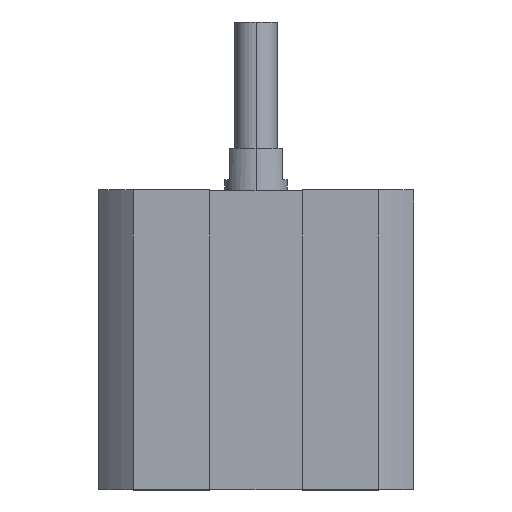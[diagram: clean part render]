
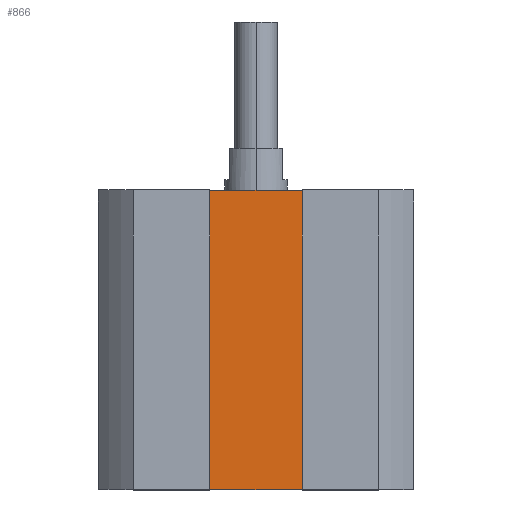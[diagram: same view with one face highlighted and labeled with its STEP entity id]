
A CAD part, top view. The second image highlights one B-rep face of the part: STEP entity #866.
In plain terms, the highlighted planar face has unit normal (0, 0, 1).
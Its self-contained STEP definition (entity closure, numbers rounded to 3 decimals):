
#17 = EDGE_CURVE ( 'NONE', #1270, #1239, #1906, .T. ) ;
#95 = AXIS2_PLACEMENT_3D ( 'NONE', #1305, #223, #940 ) ;
#127 = VECTOR ( 'NONE', #316, 1000. ) ;
#154 = CARTESIAN_POINT ( 'NONE',  ( -4.4, 0., 10. ) ) ;
#181 = DIRECTION ( 'NONE',  ( 1., 0., 0. ) ) ;
#208 = VERTEX_POINT ( 'NONE', #746 ) ;
#222 = LINE ( 'NONE', #711, #1037 ) ;
#223 = DIRECTION ( 'NONE',  ( 0., 0., 1. ) ) ;
#316 = DIRECTION ( 'NONE',  ( 0., 1., 0. ) ) ;
#424 = VECTOR ( 'NONE', #1238, 1000. ) ;
#439 = LINE ( 'NONE', #1038, #127 ) ;
#564 = CARTESIAN_POINT ( 'NONE',  ( 4.4, -28.5, 10. ) ) ;
#668 = ORIENTED_EDGE ( 'NONE', *, *, #1960, .F. ) ;
#711 = CARTESIAN_POINT ( 'NONE',  ( 0., -28.5, 10. ) ) ;
#746 = CARTESIAN_POINT ( 'NONE',  ( -4.4, -28.5, 10. ) ) ;
#755 = EDGE_CURVE ( 'NONE', #208, #1105, #222, .T. ) ;
#788 = LINE ( 'NONE', #564, #1064 ) ;
#837 = CARTESIAN_POINT ( 'NONE',  ( 4.4, -28.5, 10. ) ) ;
#866 = ADVANCED_FACE ( 'NONE', ( #2272 ), #1114, .T. ) ;
#879 = EDGE_LOOP ( 'NONE', ( #1360, #668, #1805, #1241 ) ) ;
#940 = DIRECTION ( 'NONE',  ( 1., 0., 0. ) ) ;
#1037 = VECTOR ( 'NONE', #181, 1000. ) ;
#1038 = CARTESIAN_POINT ( 'NONE',  ( -4.4, -28.5, 10. ) ) ;
#1054 = CARTESIAN_POINT ( 'NONE',  ( 4.4, 0., 10. ) ) ;
#1064 = VECTOR ( 'NONE', #1977, 1000. ) ;
#1105 = VERTEX_POINT ( 'NONE', #837 ) ;
#1114 = PLANE ( 'NONE',  #95 ) ;
#1238 = DIRECTION ( 'NONE',  ( 1., 0., 0. ) ) ;
#1239 = VERTEX_POINT ( 'NONE', #1054 ) ;
#1241 = ORIENTED_EDGE ( 'NONE', *, *, #1361, .T. ) ;
#1270 = VERTEX_POINT ( 'NONE', #154 ) ;
#1305 = CARTESIAN_POINT ( 'NONE',  ( 0., -28.5, 10. ) ) ;
#1360 = ORIENTED_EDGE ( 'NONE', *, *, #17, .F. ) ;
#1361 = EDGE_CURVE ( 'NONE', #1105, #1239, #788, .T. ) ;
#1799 = CARTESIAN_POINT ( 'NONE',  ( 0., 0., 10. ) ) ;
#1805 = ORIENTED_EDGE ( 'NONE', *, *, #755, .T. ) ;
#1906 = LINE ( 'NONE', #1799, #424 ) ;
#1960 = EDGE_CURVE ( 'NONE', #208, #1270, #439, .T. ) ;
#1977 = DIRECTION ( 'NONE',  ( 0., 1., 0. ) ) ;
#2272 = FACE_OUTER_BOUND ( 'NONE', #879, .T. ) ;
